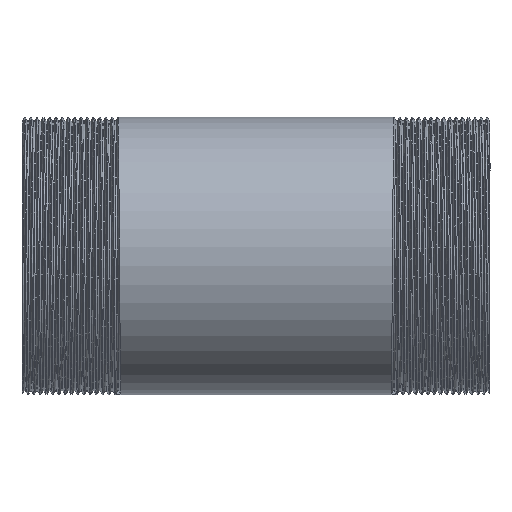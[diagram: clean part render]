
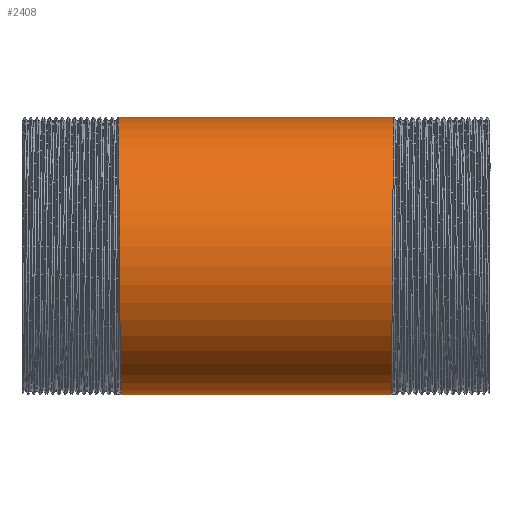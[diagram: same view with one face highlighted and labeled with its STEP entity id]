
A CAD part, front view. The second image highlights one B-rep face of the part: STEP entity #2408.
In plain terms, the highlighted cylindrical face has radius 44.45 mm (diameter 88.9 mm), a partial arc.
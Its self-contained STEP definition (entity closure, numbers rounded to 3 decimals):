
#75 = DIRECTION ( 'NONE',  ( -1., 0., 0. ) ) ;
#823 = CARTESIAN_POINT ( 'NONE',  ( -43.65, -42.274, -13.736 ) ) ;
#915 = ORIENTED_EDGE ( 'NONE', *, *, #11422, .F. ) ;
#1006 = CYLINDRICAL_SURFACE ( 'NONE', #9690, 44.45 ) ;
#1728 = CARTESIAN_POINT ( 'NONE',  ( -44.25, 0., 44.45 ) ) ;
#1833 = DIRECTION ( 'NONE',  ( -1., 0., 0. ) ) ;
#1835 = CARTESIAN_POINT ( 'NONE',  ( -44.15, -14.443, 44.45 ) ) ;
#2408 = ADVANCED_FACE ( 'NONE', ( #16591 ), #1006, .T. ) ;
#3179 = VERTEX_POINT ( 'NONE', #8850 ) ;
#3606 = DIRECTION ( 'NONE',  ( 0., 0., 1. ) ) ;
#4037 = EDGE_CURVE ( 'NONE', #10632, #16128, #16453, .T. ) ;
#4688 = VERTEX_POINT ( 'NONE', #9738 ) ;
#4864 = CARTESIAN_POINT ( 'NONE',  ( -149.494, 0., 0. ) ) ;
#5375 = CARTESIAN_POINT ( 'NONE',  ( 43.85, -42.274, 13.736 ) ) ;
#5692 = CARTESIAN_POINT ( 'NONE',  ( -44.25, 0., 44.45 ) ) ;
#6308 = CARTESIAN_POINT ( 'NONE',  ( 43.45, -26.127, -35.961 ) ) ;
#7111 = CARTESIAN_POINT ( 'NONE',  ( -43.35, -14.443, -44.45 ) ) ;
#7278 = CARTESIAN_POINT ( 'NONE',  ( -43.75, -46.737, 0. ) ) ;
#7293 = EDGE_CURVE ( 'NONE', #4688, #3179, #13626, .T. ) ;
#7691 = CARTESIAN_POINT ( 'NONE',  ( 44.25, 0., 44.45 ) ) ;
#7877 = CARTESIAN_POINT ( 'NONE',  ( 43.35, -14.443, -44.45 ) ) ;
#7956 = ORIENTED_EDGE ( 'NONE', *, *, #9383, .T. ) ;
#8196 = CARTESIAN_POINT ( 'NONE',  ( -43.55, -37.811, -27.472 ) ) ;
#8597 = CARTESIAN_POINT ( 'NONE',  ( -149.494, 0., -44.45 ) ) ;
#8850 = CARTESIAN_POINT ( 'NONE',  ( -43.25, 0., -44.45 ) ) ;
#9140 = CARTESIAN_POINT ( 'NONE',  ( 44.25, 0., 44.45 ) ) ;
#9144 = VECTOR ( 'NONE', #12331, 1000. ) ;
#9383 = EDGE_CURVE ( 'NONE', #4688, #10632, #15480, .T. ) ;
#9690 = AXIS2_PLACEMENT_3D ( 'NONE', #4864, #75, #3606 ) ;
#9704 = CARTESIAN_POINT ( 'NONE',  ( -43.25, 0., -44.45 ) ) ;
#9738 = CARTESIAN_POINT ( 'NONE',  ( 43.25, 0., -44.45 ) ) ;
#10312 = CARTESIAN_POINT ( 'NONE',  ( 43.55, -37.811, -27.472 ) ) ;
#10329 =( BOUNDED_CURVE ( )  B_SPLINE_CURVE ( 2, ( #9704, #7111, #10958, #8196, #823, #7278, #11134, #13317, #12063, #1835, #5692 ),
 .UNSPECIFIED., .F., .F. ) 
 B_SPLINE_CURVE_WITH_KNOTS ( ( 3, 2, 2, 2, 2, 3 ),
 ( 0., 0.006, 0.011, 0.017, 0.022, 0.028 ),
 .UNSPECIFIED. ) 
 CURVE ( )  GEOMETRIC_REPRESENTATION_ITEM ( )  RATIONAL_B_SPLINE_CURVE ( ( 1., 0.951, 1., 0.951, 1., 0.951, 1., 0.951, 1., 0.951, 1. ) ) 
 REPRESENTATION_ITEM ( '' )  );
#10632 = VERTEX_POINT ( 'NONE', #7691 ) ;
#10958 = CARTESIAN_POINT ( 'NONE',  ( -43.45, -26.127, -35.961 ) ) ;
#11134 = CARTESIAN_POINT ( 'NONE',  ( -43.85, -42.274, 13.736 ) ) ;
#11417 = ORIENTED_EDGE ( 'NONE', *, *, #7293, .F. ) ;
#11422 = EDGE_CURVE ( 'NONE', #3179, #16128, #10329, .T. ) ;
#11497 = CARTESIAN_POINT ( 'NONE',  ( 44.05, -26.127, 35.961 ) ) ;
#12063 = CARTESIAN_POINT ( 'NONE',  ( -44.05, -26.127, 35.961 ) ) ;
#12331 = DIRECTION ( 'NONE',  ( -1., 0., 0. ) ) ;
#12755 = CARTESIAN_POINT ( 'NONE',  ( 43.95, -37.811, 27.472 ) ) ;
#12994 = CARTESIAN_POINT ( 'NONE',  ( 43.25, 0., -44.45 ) ) ;
#13317 = CARTESIAN_POINT ( 'NONE',  ( -43.95, -37.811, 27.472 ) ) ;
#13626 = LINE ( 'NONE', #8597, #14025 ) ;
#13772 = CARTESIAN_POINT ( 'NONE',  ( -149.494, 0., 44.45 ) ) ;
#13918 = ORIENTED_EDGE ( 'NONE', *, *, #4037, .T. ) ;
#13939 = CARTESIAN_POINT ( 'NONE',  ( 43.75, -46.737, 0. ) ) ;
#14025 = VECTOR ( 'NONE', #1833, 1000. ) ;
#14421 = EDGE_LOOP ( 'NONE', ( #11417, #7956, #13918, #915 ) ) ;
#15277 = CARTESIAN_POINT ( 'NONE',  ( 43.65, -42.274, -13.736 ) ) ;
#15480 =( BOUNDED_CURVE ( )  B_SPLINE_CURVE ( 2, ( #12994, #7877, #6308, #10312, #15277, #13939, #5375, #12755, #11497, #15524, #9140 ),
 .UNSPECIFIED., .F., .T. ) 
 B_SPLINE_CURVE_WITH_KNOTS ( ( 3, 2, 2, 2, 2, 3 ),
 ( 0., 0.006, 0.011, 0.017, 0.022, 0.028 ),
 .UNSPECIFIED. ) 
 CURVE ( )  GEOMETRIC_REPRESENTATION_ITEM ( )  RATIONAL_B_SPLINE_CURVE ( ( 1., 0.951, 1., 0.951, 1., 0.951, 1., 0.951, 1., 0.951, 1. ) ) 
 REPRESENTATION_ITEM ( '' )  );
#15524 = CARTESIAN_POINT ( 'NONE',  ( 44.15, -14.443, 44.45 ) ) ;
#16128 = VERTEX_POINT ( 'NONE', #1728 ) ;
#16453 = LINE ( 'NONE', #13772, #9144 ) ;
#16591 = FACE_OUTER_BOUND ( 'NONE', #14421, .T. ) ;
